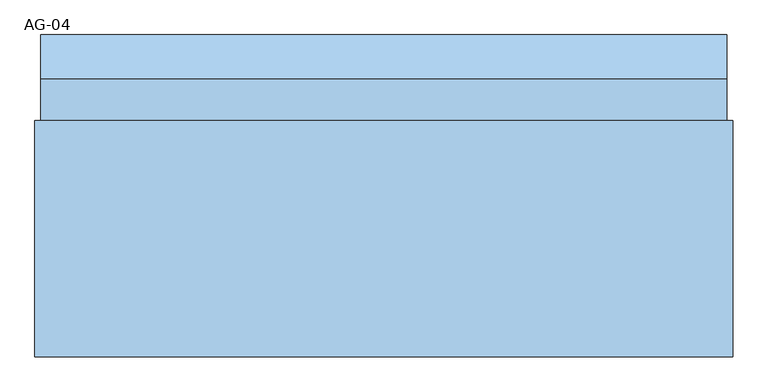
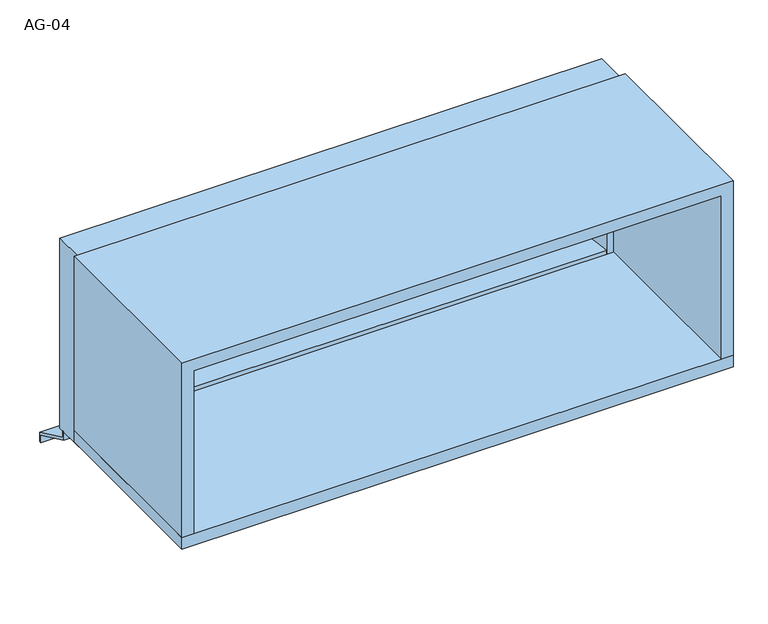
"""IFC4 building model written with IfcOpenShell, lengths in millimetres: window geometry, 営_単窓_ガラリ : AG-04."""

from ifc_helpers import new_model, si_unit, frame, origin, place, context, project, spatial, polyline, outline, extrude, source, transform, mapped, element, save


def ag_04_e8160d57(model_context):
    return source(origin(), model_context, "Body", "SweptSolid", [
        extrude(outline(polyline([(15.0, 1484.9160321), (15.0, 1466.6666667), (10.0, 1466.6666667), (10.0, 1481.6666667), (-35.0, 1501.6666667), (-35.0, 1516.6666667), (-30.0, 1516.6666667), (-30.0, 1504.9160321), (15.0, 1484.9160321)])), frame((-550.0, 0.0, 0.0), z_axis=(1.0, 0.0, 0.0), x_axis=(0.0, 1.0, 0.0)), (0.0, 0.0, 1.0), 1100.0),
        extrude(outline(polyline([(15.0, 1451.5826988), (15.0, 1433.3333333), (10.0, 1433.3333333), (10.0, 1448.3333333), (-35.0, 1468.3333333), (-35.0, 1483.3333333), (-30.0, 1483.3333333), (-30.0, 1471.5826988), (15.0, 1451.5826988)])), frame((-550.0, 0.0, 0.0), z_axis=(1.0, 0.0, 0.0), x_axis=(0.0, 1.0, 0.0)), (0.0, 0.0, 1.0), 1100.0),
        extrude(outline(polyline([(15.0, 1418.2493654), (15.0, 1400.0), (10.0, 1400.0), (10.0, 1415.0), (-35.0, 1435.0), (-35.0, 1450.0), (-30.0, 1450.0), (-30.0, 1438.2493654), (15.0, 1418.2493654)])), frame((-550.0, 0.0, 0.0), z_axis=(1.0, 0.0, 0.0), x_axis=(0.0, 1.0, 0.0)), (0.0, 0.0, 1.0), 1100.0),
        extrude(outline(polyline([(15.0, 1384.9160321), (15.0, 1366.6666667), (10.0, 1366.6666667), (10.0, 1381.6666667), (-35.0, 1401.6666667), (-35.0, 1416.6666667), (-30.0, 1416.6666667), (-30.0, 1404.9160321), (15.0, 1384.9160321)])), frame((-550.0, 0.0, 0.0), z_axis=(1.0, 0.0, 0.0), x_axis=(0.0, 1.0, 0.0)), (0.0, 0.0, 1.0), 1100.0),
        extrude(outline(polyline([(15.0, 1351.5826988), (15.0, 1333.3333333), (10.0, 1333.3333333), (10.0, 1348.3333333), (-35.0, 1368.3333333), (-35.0, 1383.3333333), (-30.0, 1383.3333333), (-30.0, 1371.5826988), (15.0, 1351.5826988)])), frame((-550.0, 0.0, 0.0), z_axis=(1.0, 0.0, 0.0), x_axis=(0.0, 1.0, 0.0)), (0.0, 0.0, 1.0), 1100.0),
        extrude(outline(polyline([(15.0, 1318.2493654), (15.0, 1300.0), (10.0, 1300.0), (10.0, 1315.0), (-35.0, 1335.0), (-35.0, 1350.0), (-30.0, 1350.0), (-30.0, 1338.2493654), (15.0, 1318.2493654)])), frame((-550.0, 0.0, 0.0), z_axis=(1.0, 0.0, 0.0), x_axis=(0.0, 1.0, 0.0)), (0.0, 0.0, 1.0), 1100.0),
        extrude(outline(polyline([(15.0, 1284.9160321), (15.0, 1266.6666667), (10.0, 1266.6666667), (10.0, 1281.6666667), (-35.0, 1301.6666667), (-35.0, 1316.6666667), (-30.0, 1316.6666667), (-30.0, 1304.9160321), (15.0, 1284.9160321)])), frame((-550.0, 0.0, 0.0), z_axis=(1.0, 0.0, 0.0), x_axis=(0.0, 1.0, 0.0)), (0.0, 0.0, 1.0), 1100.0),
        extrude(outline(polyline([(15.0, 1251.5826988), (15.0, 1233.3333333), (10.0, 1233.3333333), (10.0, 1248.3333333), (-35.0, 1268.3333333), (-35.0, 1283.3333333), (-30.0, 1283.3333333), (-30.0, 1271.5826988), (15.0, 1251.5826988)])), frame((-550.0, 0.0, 0.0), z_axis=(1.0, 0.0, 0.0), x_axis=(0.0, 1.0, 0.0)), (0.0, 0.0, 1.0), 1100.0),
        extrude(outline(polyline([(15.0, 1518.2493654), (15.0, 1500.0), (10.0, 1500.0), (10.0, 1515.0), (-35.0, 1535.0), (-35.0, 1550.0), (-30.0, 1550.0), (-30.0, 1538.2493654), (15.0, 1518.2493654)])), frame((-550.0, 0.0, 0.0), z_axis=(1.0, 0.0, 0.0), x_axis=(0.0, 1.0, 0.0)), (0.0, 0.0, 1.0), 1100.0),
        extrude(outline(polyline([(15.0, 1218.2493654), (15.0, 1200.0), (10.0, 1200.0), (10.0, 1215.0), (-35.0, 1235.0), (-35.0, 1250.0), (-30.0, 1250.0), (-30.0, 1238.2493654), (15.0, 1218.2493654)])), frame((-550.0, 0.0, 0.0), z_axis=(1.0, 0.0, 0.0), x_axis=(0.0, 1.0, 0.0)), (0.0, 0.0, 1.0), 1100.0),
        extrude(outline(polyline([(590.0, -445.0), (-590.0, -445.0), (-590.0, -45.0), (590.0, -45.0), (590.0, -445.0)])), frame((0.0, 0.0, 1165.0), z_axis=(0.0, 0.0, 1.0), x_axis=(1.0, 0.0, 0.0)), (0.0, 0.0, 1.0), 25.0),
        extrude(outline(polyline([(15.0, 1135.0), (100.0, 1095.0), (100.0, 1075.0), (95.0014518, 1075.0), (95.0014518, 1091.8262891), (10.0, 1131.8269723), (10.0, 1150.0), (15.0, 1150.0), (15.0, 1135.0)])), frame((-580.0, 0.0, 0.0), z_axis=(1.0, 0.0, 0.0), x_axis=(0.0, 1.0, 0.0)), (0.0, 0.0, 1.0), 1160.0),
        extrude(outline(polyline([(1165.0, -590.0), (1165.0, -565.0), (1560.0, -565.0), (1560.0, 565.0), (1165.0, 565.0), (1165.0, 590.0), (1585.0, 590.0), (1585.0, -590.0), (1165.0, -590.0)])), frame((0.0, -445.0, 0.0), z_axis=(0.0, 1.0, 0.0), x_axis=(0.0, 0.0, 1.0)), (0.0, 0.0, 1.0), 400.0),
        extrude(outline(polyline([(1150.0, -580.0), (1150.0, -550.0), (1550.0, -550.0), (1550.0, 550.0), (1150.0, 550.0), (1150.0, 580.0), (1580.0, 580.0), (1580.0, -580.0), (1150.0, -580.0)])), frame((0.0, -45.0, 0.0), z_axis=(0.0, 1.0, 0.0), x_axis=(0.0, 0.0, 1.0)), (0.0, 0.0, 1.0), 70.0),
        extrude(outline(polyline([(-45.0, 1150.0), (-45.0, 1200.0), (25.0, 1190.6666667), (25.0, 1150.0), (-45.0, 1150.0)])), frame((-550.0, 0.0, 0.0), z_axis=(1.0, 0.0, 0.0), x_axis=(0.0, 1.0, 0.0)), (0.0, 0.0, 1.0), 1100.0),
    ])


if __name__ == "__main__":
    model = new_model("IFC4")
    model_context = context("Model", 3, world=origin())
    ifc_project = project(units=[si_unit("LENGTHUNIT", "METRE", prefix="MILLI")], contexts=[model_context])
    site = spatial("IfcSite", under=ifc_project)
    building = spatial("IfcBuilding", under=site)
    placement = place(None, origin())
    ag_04_shape = ag_04_e8160d57(model_context)
    element("IfcWindow", 1, ObjectType="営_単窓_ガラリ : AG-04", at=placement, inside=building, context=model_context, shape_type="MappedRepresentation", body=[
        mapped(ag_04_shape, transform((0.0, 0.0, 0.0), x_axis=(1.0, 0.0, 0.0), y_axis=(0.0, 1.0, 0.0), z_axis=(0.0, 0.0, 1.0))),
    ])
    save(model, "model.ifc")
